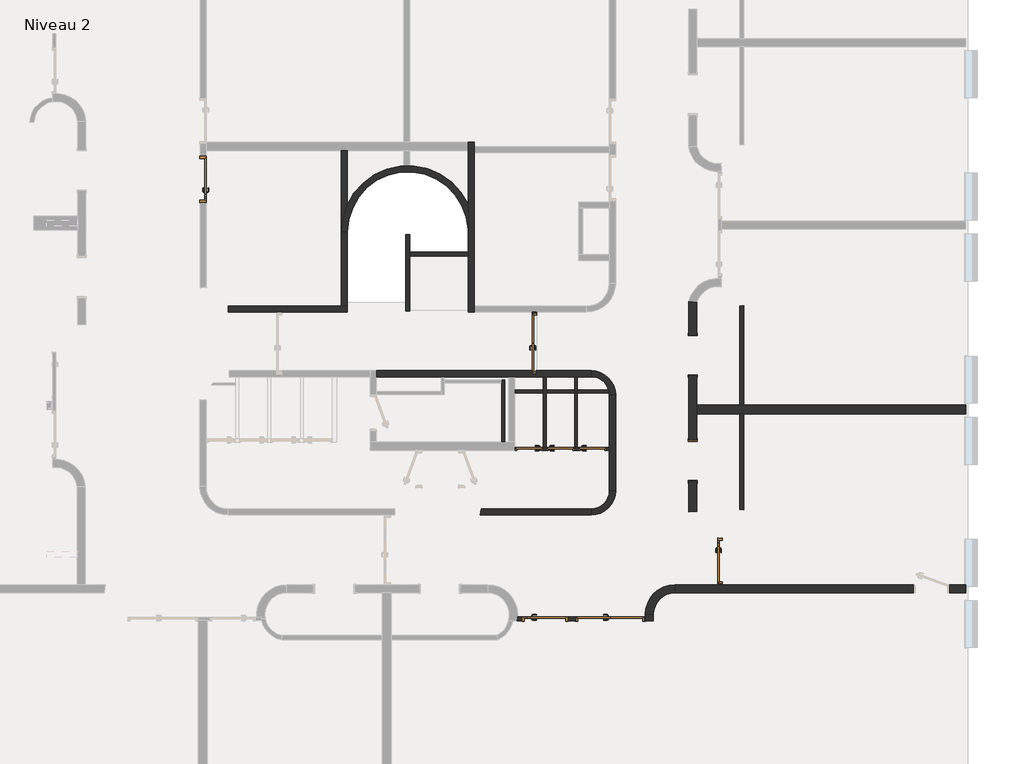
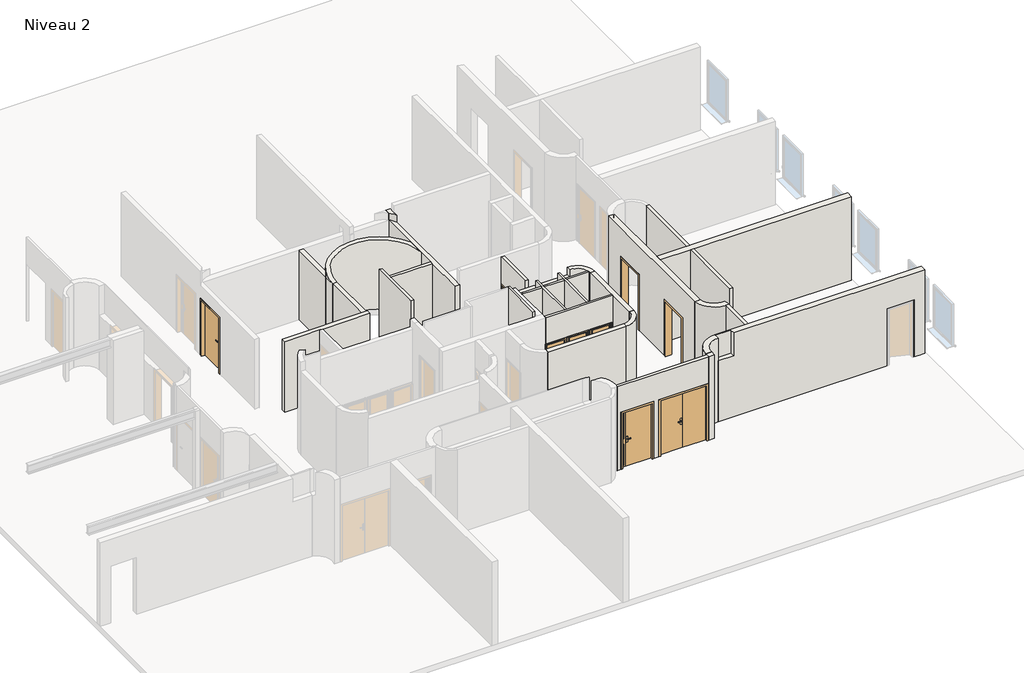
# One storey, part 3 of 5: 26 walls, 10 doors.
"""IFC4 building model written with IfcOpenShell, lengths in millimetres."""

from ifc_helpers import new_model, si_unit, point, frame, frame_2d, origin, place, context, project, spatial, polyline, circle_curve, trimmed, segment, composite_curve, outline, extrude, faceted_brep, transform, mapped, element, save
from ifc_brep_helpers import plane_surface, cylinder_surface, revolved_surface, advanced_brep
from components import door_50a5e481, door_d545ad62, door_1_10m_x_2_04m_0ed3c462, door_1_10m_x_2_04m_af5b6f76, door_1_10m_x_2_04m_b123601a, double_r_1_43m_x_2_04m_b80630db, double_r_1_63m_x_2_04m_345aba02, ouverture_en_rectangle_ouverture100x200_67694711

model = new_model("IFC4")

# Units and contexts
model_context = context("Model", 3, world=origin())
ifc_project = project(units=[si_unit("LENGTHUNIT", "METRE", prefix="MILLI")], contexts=[model_context])

# Site, building, storey
site = spatial("IfcSite", under=ifc_project)
building = spatial("IfcBuilding", under=site)
storey = spatial("IfcBuildingStorey", under=building, Name="Niveau 2", Elevation=7367.3082742)

# Doors
placement = place(None, origin())
door_shape = door_50a5e481(model_context)
element("IfcDoor", 1, ObjectType="@_Int. Simple : @_PP (0.63m x 2.04m)", at=placement, inside=storey, context=model_context, shape_type="MappedRepresentation", body=[
    mapped(door_shape, transform((-7902.2987935, -10692.340281, 7367.3082742), x_axis=(-1.0, 0.0, 0.0), y_axis=(0.0, -1.0, 0.0), z_axis=(0.0, 0.0, 1.0))),
])
door_2_shape = door_d545ad62(model_context)
element("IfcDoor", 2, ObjectType="@_Int. Simple : @_PP (0.63m x 2.04m)", at=placement, inside=storey, context=model_context, shape_type="MappedRepresentation", body=[
    mapped(door_2_shape, transform((-7062.2987935, -10692.340281, 7367.3082742), x_axis=(1.0, 0.0, 0.0), y_axis=(0.0, 1.0, 0.0), z_axis=(0.0, 0.0, 1.0))),
])
element("IfcDoor", 3, ObjectType="@_Int. Simple : @_PP (0.63m x 2.04m)", at=placement, inside=storey, context=model_context, shape_type="MappedRepresentation", body=[
    mapped(door_2_shape, transform((-6270.6439837, -10692.340281, 7367.3082742), x_axis=(1.0, 0.0, 0.0), y_axis=(0.0, 1.0, 0.0), z_axis=(0.0, 0.0, 1.0))),
])
door_1_10m_x_2_04m_shape = door_1_10m_x_2_04m_0ed3c462(model_context)
element("IfcDoor", 4, ObjectType="Tierce  160 : 1.10m x 2.04m", at=placement, inside=storey, context=model_context, shape_type="MappedRepresentation", body=[
    mapped(door_1_10m_x_2_04m_shape, transform((-7473.0636624, -14870.5536882, 7367.3082742), x_axis=(-1.0, 0.0, 0.0), y_axis=(0.0, -1.0, 0.0), z_axis=(0.0, 0.0, 1.0))),
])
door_1_10m_x_2_04m_2_shape = door_1_10m_x_2_04m_af5b6f76(model_context)
element("IfcDoor", 5, ObjectType="Tierce  160 : 1.10m x 2.04m", at=placement, inside=storey, context=model_context, shape_type="MappedRepresentation", body=[
    mapped(door_1_10m_x_2_04m_2_shape, transform((-3176.3429255, -13452.843611, 7367.3082742), x_axis=(0.0, 1.0, 0.0), y_axis=(-1.0, 0.0, 0.0), z_axis=(0.0, 0.0, 1.0))),
])
door_1_10m_x_2_04m_3_shape = door_1_10m_x_2_04m_b123601a(model_context)
element("IfcDoor", 6, ObjectType="Tierce  160 : 1.10m x 2.04m", at=placement, inside=storey, context=model_context, shape_type="MappedRepresentation", body=[
    mapped(door_1_10m_x_2_04m_3_shape, transform((-15865.2391723, -4069.1151394, 7367.3082742), x_axis=(0.0, -1.0, 0.0), y_axis=(1.0, 0.0, 0.0), z_axis=(0.0, 0.0, 1.0))),
])
double_r_1_43m_x_2_04m_shape = double_r_1_43m_x_2_04m_b80630db(model_context)
element("IfcDoor", 7, ObjectType="Double (R) : 1.43m x 2.04m", at=placement, inside=storey, context=model_context, shape_type="MappedRepresentation", body=[
    mapped(double_r_1_43m_x_2_04m_shape, transform((-7733.9891738, -8101.6151404, 7367.3082742), x_axis=(0.0, -1.0, 0.0), y_axis=(1.0, 0.0, 0.0), z_axis=(0.0, 0.0, 1.0))),
])
double_r_1_63m_x_2_04m_shape = double_r_1_63m_x_2_04m_345aba02(model_context)
element("IfcDoor", 8, ObjectType="Double (R) : 1.63m x 2.04m", at=placement, inside=storey, context=model_context, shape_type="MappedRepresentation", body=[
    mapped(double_r_1_63m_x_2_04m_shape, transform((-5873.9891741, -14870.5536882, 7367.3082742), x_axis=(-1.0, 0.0, 0.0), y_axis=(0.0, -1.0, 0.0), z_axis=(0.0, 0.0, 1.0))),
])
ouverture_en_rectangle_ouverture100x200_shape = ouverture_en_rectangle_ouverture100x200_67694711(model_context)
element("IfcDoor", 9, ObjectType="Ouverture en rectangle : Ouverture100x200", at=placement, inside=storey, context=model_context, shape_type="MappedRepresentation", body=[
    mapped(ouverture_en_rectangle_ouverture100x200_shape, transform((-3843.9891739, -10985.0791632, 7367.3082742), x_axis=(0.0, -1.0, 0.0), y_axis=(1.0, 0.0, 0.0), z_axis=(0.0, 0.0, 1.0))),
])
element("IfcDoor", 10, ObjectType="Ouverture en rectangle : Ouverture100x200", at=placement, inside=storey, context=model_context, shape_type="MappedRepresentation", body=[
    mapped(ouverture_en_rectangle_ouverture100x200_shape, transform((-3843.9891739, -8392.5129694, 7367.3082742), x_axis=(0.0, -1.0, 0.0), y_axis=(1.0, 0.0, 0.0), z_axis=(0.0, 0.0, 1.0))),
])

# Walls
element("IfcWall", 11, ObjectType="@_Générique - Int. 150 mm", at=placement, inside=storey, context=model_context, shape_type="AdvancedBrep", body=[
    advanced_brep(
    [(-6343.9891682, -8771.2578567, 10153.3082742), (-6343.9891682, -8771.2578567, 7367.3082742), (-7683.9891738, -8771.2578565, 7367.3082742), (-7683.9891738, -8771.2578565, 9442.3082742), (-7783.9891738, -8771.2578565, 9442.3082742), (-7783.9891738, -8771.2578565, 7367.3082742), (-11612.2987935, -8771.2578557, 7367.3082742), (-11612.2987935, -8771.2578557, 9903.3082742), (-9300.3729494, -8771.2578562, 9903.3082742), (-9300.3729494, -8771.2578562, 10153.3082742), (-11612.2987935, -8921.2578557, 7367.3082742), (-8367.2987935, -8921.2578564, 7367.3082742), (-8217.2987935, -8921.2578564, 7367.3082742), (-6343.9891682, -8921.2578567, 7367.3082742), (-6343.9891682, -8921.2578567, 10153.3082742), (-9467.1593124, -8921.2578562, 10153.3082742), (-9467.1593124, -8921.2578562, 9903.3082742), (-11612.2987935, -8921.2578557, 9903.3082742), (-7783.9891738, -8851.6151404, 7367.3082742), (-7683.9891738, -8851.6151404, 7367.3082742), (-7783.9891738, -8851.6151404, 9442.3082742), (-7683.9891738, -8851.6151404, 9442.3082742)],
    [
        (0, 1),
        (1, 2),
        (2, 3),
        (3, 4),
        (4, 5),
        (5, 6),
        (6, 7),
        (7, 8),
        (8, 9),
        (9, 0),
        (10, 11),
        (11, 12),
        (12, 13),
        (13, 14),
        (14, 15),
        (15, 16),
        (16, 17),
        (17, 10),
        (10, 6),
        (5, 18),
        (18, 19),
        (19, 2),
        (1, 13),
        (14, 0),
        (9, 15, circle_curve(frame((-9798.5997137, -8385.0006258, 10153.3082742), z_axis=(0.0, 0.0, -1.0), x_axis=(1.0, 0.0, 0.0)), 630.4161773)),
        (17, 7),
        (20, 18),
        (4, 20),
        (19, 21),
        (21, 3),
        (20, 21),
        (16, 8, circle_curve(frame((-9798.5997137, -8385.0006258, 9903.3082742), z_axis=(0.0, 0.0, 1.0), x_axis=(1.0, 0.0, 0.0)), 630.4161773)),
    ],
    [
        plane_surface(frame((-6885.9365048, -8771.2578566, 7367.3082742), z_axis=(1.901362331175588e-10, 1.0, 0.0), x_axis=(-1.0, 1.901362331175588e-10, 0.0))),
        plane_surface(frame((-6885.9365049, -8921.2578566, 7367.3082742), z_axis=(-1.901362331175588e-10, -1.0, 0.0), x_axis=(1.0, -1.901362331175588e-10, 0.0))),
        plane_surface(frame((-6343.9891682, -8771.2578567, 7367.3082742), z_axis=(0.0, 0.0, -1.0), x_axis=(-1.9013702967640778e-10, -1.0, 0.0))),
        plane_surface(frame((-11687.2987935, -8771.2578557, 10153.3082742), z_axis=(0.0, 0.0, 1.0), x_axis=(-1.9013702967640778e-10, -1.0, 0.0))),
        plane_surface(frame((-6343.9891682, -8771.2578567, 10153.3082742), z_axis=(1.0, -1.9013702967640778e-10, 0.0), x_axis=(-1.9013702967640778e-10, -1.0, 0.0))),
        plane_surface(frame((-11612.2987936, -9336.9590737, 7367.3082742), z_axis=(-1.0, 5.461864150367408e-11, 0.0), x_axis=(5.461864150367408e-11, 1.0, 0.0))),
        plane_surface(frame((-7783.9891738, -8851.6151404, 7367.3082742), z_axis=(1.0, 0.0, 0.0), x_axis=(0.0, 0.0, 1.0))),
        plane_surface(frame((-7683.9891738, -8851.6151404, 7367.3082742), z_axis=(-1.0, 0.0, 0.0), x_axis=(0.0, 0.0, -1.0))),
        plane_surface(frame((-7783.9891738, -8851.6151404, 7367.3082742), z_axis=(0.0, 1.0, 0.0), x_axis=(1.0, 0.0, 0.0))),
        plane_surface(frame((-7783.9891738, -8851.6151404, 9442.3082742), z_axis=(0.0, 0.0, -1.0), x_axis=(1.0, 0.0, 0.0))),
        plane_surface(frame((-16005.9365049, -3748.1295117, 9903.3082742), z_axis=(0.0, 0.0, 1.0), x_axis=(0.0, 1.0, 0.0))),
        revolved_surface(polyline([(-9168.1835364, -8385.0006258, 9903.3082742), (-9168.1835364, -8385.0006258, 10153.3082742)]), (-9798.5997137, -8385.0006258, 10153.3082742), (0.0, 0.0, -1.0)),
    ],
    [
        (0, [[1, 2, 3, 4, 5, 6, 7, 8, 9, 10]]),
        (1, [[11, 12, 13, 14, 15, 16, 17, 18]]),
        (2, [[-13, -12, -11, 19, -6, 20, 21, 22, -2, 23]]),
        (3, [[24, -10, 25, -15]]),
        (4, [[-1, -24, -14, -23]]),
        (5, [[-19, -18, 26, -7]]),
        (6, [[27, -20, -5, 28]]),
        (7, [[29, 30, -3, -22]]),
        (8, [[-27, 31, -29, -21]]),
        (9, [[-31, -28, -4, -30]]),
        (10, [[32, -8, -26, -17]]),
        (11, [[-32, -16, -25, -9]]),
    ],
),
])
element("IfcWall", 12, ObjectType="@_Générique - Int. 150 mm", at=placement, inside=storey, context=model_context, shape_type="SweptSolid", body=[
    extrude(outline(polyline([(-5893.9891697, -11719.0722245), (-5893.9891695, -9371.2578561), (-5743.9891695, -9371.2578561), (-5743.9891697, -11719.0722245), (-5893.9891697, -11719.0722245)])), frame((0.0, 0.0, 7367.3082742), z_axis=(0.0, 0.0, 1.0), x_axis=(1.0, 0.0, 0.0)), (0.0, 0.0, 1.0), 3056.0),
])
element("IfcWall", 13, ObjectType="@_Générique - Int. 150 mm", at=placement, inside=storey, context=model_context, shape_type="SweptSolid", body=[
    extrude(outline(polyline([(-9039.5387792, -12169.0722257), (-6343.9891715, -12169.0722258), (-6343.9891715, -12319.0722258), (-9061.0734527, -12319.0722257), (-9039.5387792, -12169.0722257)])), frame((0.0, 0.0, 7367.3082742), z_axis=(0.0, 0.0, 1.0), x_axis=(1.0, 0.0, 0.0)), (0.0, 0.0, 1.0), 3056.0),
])
element("IfcWall", 14, ObjectType="@_Générique - Int. 150 mm", at=placement, inside=storey, context=model_context, shape_type="AdvancedBrep", body=[
    advanced_brep(
    [(-5743.9891691, -9371.2578562, 7367.3082742), (-5893.9891691, -9371.2578562, 7367.3082742), (-6343.9891683, -8921.2578567, 7367.3082742), (-6343.9891683, -8771.2578567, 7367.3082742), (-6343.9891683, -8771.2578567, 10423.3082742), (-5743.9891691, -9371.2578562, 10423.3082742), (-6343.9891683, -8771.2578567, 10153.3082742), (-6343.9891683, -8921.2578567, 10423.3082742), (-6343.9891683, -8921.2578567, 10153.3082742), (-5893.9891691, -9371.2578562, 10423.3082742)],
    [
        (0, 1),
        (1, 2, circle_curve(frame((-6343.9891685, -9371.2578561, 7367.3082742), z_axis=(0.0, 0.0, 1.0), x_axis=(2.8420715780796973e-10, 1.0, 0.0)), 449.9999994)),
        (2, 3),
        (3, 0, circle_curve(frame((-6343.9891685, -9371.2578561, 7367.3082742), z_axis=(0.0, 0.0, -1.0), x_axis=(2.8420715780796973e-10, 1.0, 0.0)), 599.9999994)),
        (4, 5, circle_curve(frame((-6343.9891685, -9371.2578561, 10423.3082742), z_axis=(0.0, 0.0, -1.0), x_axis=(2.8420715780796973e-10, 1.0, 0.0)), 599.9999994)),
        (5, 0),
        (3, 6),
        (6, 4),
        (7, 4),
        (2, 8),
        (8, 7),
        (9, 7, circle_curve(frame((-6343.9891685, -9371.2578561, 10423.3082742), z_axis=(0.0, 0.0, 1.0), x_axis=(2.8420715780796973e-10, 1.0, 0.0)), 449.9999994)),
        (1, 9),
        (5, 9),
    ],
    [
        plane_surface(frame((-6343.9891683, -8771.2578567, 7367.3082742), z_axis=(0.0, 0.0, -1.0), x_axis=(1.0, -2.8420715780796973e-10, 0.0))),
        cylinder_surface(frame((-6343.9891685, -9371.2578561, 7367.3082742), z_axis=(0.0, 0.0, 1.0), x_axis=(2.8420715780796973e-10, 1.0, 0.0)), 599.9999994),
        plane_surface(frame((-6343.9891683, -8771.2578567, 10423.3082742), z_axis=(-1.0, 2.8423096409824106e-10, 0.0), x_axis=(0.0, 0.0, -1.0))),
        revolved_surface(polyline([(-6343.989168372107, -8921.257856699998, 7367.3082742), (-6343.989168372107, -8921.257856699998, 10423.3082742)]), (-6343.9891685, -9371.2578561, 7367.3082742), (0.0, 0.0, -1.0)),
        plane_surface(frame((-5893.9891691, -9371.2578562, 10423.3082742), z_axis=(-2.8423096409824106e-10, -1.0, 0.0), x_axis=(0.0, 0.0, -1.0))),
        plane_surface(frame((-25603.9891731, 10580.8848592, 10423.3082742), z_axis=(0.0, 0.0, 1.0), x_axis=(0.0, 1.0, 0.0))),
    ],
    [
        (0, [[1, 2, 3, 4]]),
        (1, [[5, 6, -4, 7, 8]]),
        (2, [[9, -8, -7, -3, 10, 11]]),
        (3, [[12, -11, -10, -2, 13]]),
        (4, [[14, -13, -1, -6]]),
        (5, [[-5, -9, -12, -14]]),
    ],
),
])
element("IfcWall", 15, ObjectType="@_Générique - Int. 150 mm", at=placement, inside=storey, context=model_context, shape_type="SweptSolid", body=[
    extrude(outline(composite_curve([segment(polyline([(-6343.9891718, -12319.0722259), (-6343.9891717, -12169.0722259)]), True, "CONTINUOUS"), segment(trimmed(circle_curve(frame_2d((-6343.9891715, -11719.0722245)), 450.0000014), [point((-6343.9891717, -12169.0722259))], [point((-5893.9891701, -11719.0722247))], True, "CARTESIAN"), True, "CONTINUOUS"), segment(polyline([(-5893.9891701, -11719.0722247), (-5743.9891701, -11719.0722247)]), True, "CONTINUOUS"), segment(trimmed(circle_curve(frame_2d((-6343.9891715, -11719.0722245)), 600.0000014), [point((-5743.9891701, -11719.0722247))], [point((-6343.9891718, -12319.0722259))], False, "CARTESIAN"), True, "CONTINUOUS")], self_intersect=False)), frame((0.0, 0.0, 7367.3082742), z_axis=(0.0, 0.0, 1.0), x_axis=(1.0, 0.0, 0.0)), (0.0, 0.0, 1.0), 3056.0),
])
element("IfcWall", 16, ObjectType="@_Générique - Int. 100 mm", at=placement, inside=storey, context=model_context, shape_type="Brep", body=[
    faceted_brep([(-10893.9891698, -5429.1151397, 7367.3082742), (-10893.9891698, -7309.1151398, 7367.3082742), (-10893.9891698, -7309.1151398, 9903.3082742), (-10893.9891698, -5429.1151397, 9903.3082742), (-10793.9891698, -5429.1151397, 7367.3082742), (-10793.9891698, -5429.1151397, 9903.3082742), (-10793.9891698, -5856.6151397, 9903.3082742), (-10793.9891698, -5956.6151397, 9903.3082742), (-10793.9891698, -7309.1151398, 9903.3082742), (-10793.9891698, -7309.1151398, 7367.3082742), (-10793.9891698, -5956.6151397, 7367.3082742), (-10793.9891698, -5856.6151397, 7367.3082742)], [[[0, 1, 2, 3]], [[4, 5, 6, 7, 8, 9, 10, 11]], [[1, 0, 4, 11, 10, 9]], [[2, 1, 9, 8]], [[0, 3, 5, 4]], [[3, 2, 8, 7, 6, 5]]]),
])
element("IfcWall", 17, ObjectType="@_Générique - Int. 100 mm", at=placement, inside=storey, context=model_context, shape_type="SweptSolid", body=[
    extrude(outline(polyline([(-7329.1151401, 10423.3082742), (-7329.1151401, 7367.3082742), (-7351.6151404, 7367.3082742), (-7351.6151404, 9442.3082742), (-8771.2578565, 9442.3082742), (-8771.2578565, 10423.3082742), (-7329.1151401, 10423.3082742)])), frame((-7783.9891738, 0.0, 0.0), z_axis=(1.0, 0.0, 0.0), x_axis=(0.0, 1.0, 0.0)), (0.0, 0.0, 1.0), 100.0),
])
element("IfcWall", 18, ObjectType="@_Générique - Int. 100 mm", at=placement, inside=storey, context=model_context, shape_type="AdvancedBrep", body=[
    advanced_brep(
    [(-5012.8651863, -14920.5536882, 10423.3082742), (-8167.0750995, -14920.5536882, 10423.3082742), (-8167.0750995, -14920.5536882, 7367.3082742), (-8033.0636624, -14920.5536882, 7367.3082742), (-8033.0636624, -14920.5536882, 9442.3082742), (-6913.0636624, -14920.5536882, 9442.3082742), (-6913.0636624, -14920.5536882, 7367.3082742), (-6723.9891741, -14920.5536882, 7367.3082742), (-6723.9891741, -14920.5536882, 9442.3082742), (-5023.9891741, -14920.5536882, 9442.3082742), (-5023.9891741, -14920.5536882, 7367.3082742), (-5012.8651863, -14920.5536882, 7367.3082742), (-8151.5901412, -14820.5536882, 10423.3082742), (-5012.8651863, -14820.5536882, 10423.3082742), (-5012.8651863, -14820.5536882, 7367.3082742), (-5023.9891741, -14820.5536882, 7367.3082742), (-5023.9891741, -14820.5536882, 9442.3082742), (-6723.9891741, -14820.5536882, 9442.3082742), (-6723.9891741, -14820.5536882, 7367.3082742), (-6913.0636624, -14820.5536882, 7367.3082742), (-6913.0636624, -14820.5536882, 9442.3082742), (-8033.0636624, -14820.5536882, 9442.3082742), (-8033.0636624, -14820.5536882, 7367.3082742), (-8151.5901412, -14820.5536882, 7367.3082742)],
    [
        (0, 1),
        (1, 2),
        (2, 3),
        (3, 4),
        (4, 5),
        (5, 6),
        (6, 7),
        (7, 8),
        (8, 9),
        (9, 10),
        (10, 11),
        (11, 0),
        (12, 13),
        (13, 14),
        (14, 15),
        (15, 16),
        (16, 17),
        (17, 18),
        (18, 19),
        (19, 20),
        (20, 21),
        (21, 22),
        (22, 23),
        (23, 12),
        (2, 23, circle_curve(frame((-8879.0, -14759.1134946, 7367.3082742), z_axis=(0.0, 0.0, 1.0), x_axis=(1.0, 0.0, 0.0)), 730.0)),
        (22, 3),
        (14, 11),
        (10, 15),
        (6, 19),
        (18, 7),
        (0, 13),
        (12, 1, circle_curve(frame((-8879.0, -14759.1134946, 10423.3082742), z_axis=(0.0, 0.0, -1.0), x_axis=(1.0, 0.0, 0.0)), 730.0)),
        (21, 4),
        (20, 5),
        (17, 8),
        (16, 9),
    ],
    [
        plane_surface(frame((-9830.6588449, -14920.5536882, 7367.3082742), z_axis=(0.0, -1.0, 0.0), x_axis=(1.0, 0.0, 0.0))),
        plane_surface(frame((-9830.6588449, -14820.5536882, 7367.3082742), z_axis=(0.0, 1.0, 0.0), x_axis=(-1.0, 0.0, 0.0))),
        plane_surface(frame((-8258.9346137, -14920.5536882, 7367.3082742), z_axis=(0.0, 0.0, -1.0), x_axis=(0.0, 1.0, 0.0))),
        plane_surface(frame((-25603.9891731, 10580.8848592, 10423.3082742), z_axis=(0.0, 0.0, 1.0), x_axis=(0.0, 1.0, 0.0))),
        revolved_surface(polyline([(-8149.0, -14759.1134946, 10423.3082742), (-8149.0, -14759.1134946, 7367.3082742)]), (-8879.0, -14759.1134946, 7367.3082742), (0.0, 0.0, 1.0)),
        plane_surface(frame((-5012.8651863, -18707.2463597, 7367.3082742), z_axis=(1.0, 0.0, 0.0), x_axis=(0.0, -1.0, 0.0))),
        plane_surface(frame((-8033.0636624, -13296.5536882, 7367.3082742), z_axis=(1.0, 0.0, 0.0), x_axis=(0.0, -1.0, 0.0))),
        plane_surface(frame((-8033.0636624, -13296.5536882, 9442.3082742), z_axis=(0.0, 0.0, -1.0), x_axis=(0.0, -1.0, 0.0))),
        plane_surface(frame((-6913.0636624, -13296.5536882, 9442.3082742), z_axis=(-1.0, 0.0, 0.0), x_axis=(0.0, -1.0, 0.0))),
        plane_surface(frame((-6723.9891741, -13296.5536882, 7367.3082742), z_axis=(1.0, 0.0, 0.0), x_axis=(0.0, -1.0, 0.0))),
        plane_surface(frame((-6723.9891741, -13296.5536882, 9442.3082742), z_axis=(0.0, 0.0, -1.0), x_axis=(0.0, -1.0, 0.0))),
        plane_surface(frame((-5023.9891741, -13296.5536882, 9442.3082742), z_axis=(-1.0, 0.0, 0.0), x_axis=(0.0, -1.0, 0.0))),
    ],
    [
        (0, [[1, 2, 3, 4, 5, 6, 7, 8, 9, 10, 11, 12]]),
        (1, [[13, 14, 15, 16, 17, 18, 19, 20, 21, 22, 23, 24]]),
        (2, [[25, -23, 26, -3]]),
        (2, [[27, -11, 28, -15]]),
        (2, [[29, -19, 30, -7]]),
        (3, [[-1, 31, -13, 32]]),
        (4, [[-2, -32, -24, -25]]),
        (5, [[-12, -27, -14, -31]]),
        (6, [[-4, -26, -22, 33]]),
        (7, [[-5, -33, -21, 34]]),
        (8, [[-6, -34, -20, -29]]),
        (9, [[35, -8, -30, -18]]),
        (10, [[-35, -17, 36, -9]]),
        (11, [[-36, -16, -28, -10]]),
    ],
),
])
element("IfcWall", 19, ObjectType="@_Générique - Int. 100 mm", at=placement, inside=storey, context=model_context, shape_type="AdvancedBrep", body=[
    advanced_brep(
    [(-3226.3429255, -14029.1151398, 10423.3082742), (-3226.3429255, -12866.7205785, 10423.3082742), (-3226.3429255, -12866.7205785, 7367.3082742), (-3226.3429255, -12892.843611, 7367.3082742), (-3226.3429255, -12892.843611, 9442.3082742), (-3226.3429255, -14012.843611, 9442.3082742), (-3226.3429255, -14012.843611, 7367.3082742), (-3226.3429255, -14029.1151398, 7367.3082742), (-3126.3429255, -12860.4139037, 10423.3082742), (-3126.3429255, -14029.1151398, 10423.3082742), (-3126.3429255, -14029.1151398, 7367.3082742), (-3126.3429255, -14012.843611, 7367.3082742), (-3126.3429255, -14012.843611, 9442.3082742), (-3126.3429255, -12892.843611, 9442.3082742), (-3126.3429255, -12892.843611, 7367.3082742), (-3126.3429255, -12860.4139037, 7367.3082742)],
    [
        (0, 1),
        (1, 2),
        (2, 3),
        (3, 4),
        (4, 5),
        (5, 6),
        (6, 7),
        (7, 0),
        (8, 9),
        (9, 10),
        (10, 11),
        (11, 12),
        (12, 13),
        (13, 14),
        (14, 15),
        (15, 8),
        (10, 7),
        (6, 11),
        (2, 15, circle_curve(frame((-3222.1820332, -12136.7324368, 7367.3082742), z_axis=(0.0, 0.0, 1.0), x_axis=(-1.0, 0.0, 0.0)), 730.0)),
        (14, 3),
        (0, 9),
        (8, 1, circle_curve(frame((-3222.1820332, -12136.7324368, 10423.3082742), z_axis=(0.0, 0.0, -1.0), x_axis=(-1.0, 0.0, 0.0)), 730.0)),
        (4, 13),
        (12, 5),
    ],
    [
        plane_surface(frame((-3226.3429255, -10782.8101599, 7367.3082742), z_axis=(-1.0, 0.0, 0.0), x_axis=(0.0, -1.0, 0.0))),
        plane_surface(frame((-3126.3429255, -10782.8101599, 7367.3082742), z_axis=(1.0, 0.0, 0.0), x_axis=(0.0, 1.0, 0.0))),
        plane_surface(frame((-3226.3429255, -12765.0625859, 7367.3082742), z_axis=(0.0, 0.0, -1.0), x_axis=(1.0, 0.0, 0.0))),
        plane_surface(frame((-25603.9891731, 10580.8848592, 10423.3082742), z_axis=(0.0, 0.0, 1.0), x_axis=(0.0, 1.0, 0.0))),
        plane_surface(frame((-4185.9365048, -14029.1151398, 7367.3082742), z_axis=(0.0, -1.0, 0.0), x_axis=(-1.0, 0.0, 0.0))),
        revolved_surface(polyline([(-3952.1820332, -12136.7324368, 10423.3082742), (-3952.1820332, -12136.7324368, 7367.3082742)]), (-3222.1820332, -12136.7324368, 7367.3082742), (0.0, 0.0, 1.0)),
        plane_surface(frame((-1702.3429255, -12892.843611, 9442.3082742), z_axis=(0.0, 0.0, -1.0), x_axis=(-1.0, 0.0, 0.0))),
        plane_surface(frame((-1702.3429255, -14012.843611, 9442.3082742), z_axis=(0.0, 1.0, 0.0), x_axis=(-1.0, 0.0, 0.0))),
        plane_surface(frame((-1702.3429255, -12892.843611, 7367.3082742), z_axis=(0.0, -1.0, 0.0), x_axis=(-1.0, 0.0, 0.0))),
    ],
    [
        (0, [[1, 2, 3, 4, 5, 6, 7, 8]]),
        (1, [[9, 10, 11, 12, 13, 14, 15, 16]]),
        (2, [[17, -7, 18, -11]]),
        (2, [[19, -15, 20, -3]]),
        (3, [[-1, 21, -9, 22]]),
        (4, [[-8, -17, -10, -21]]),
        (5, [[-2, -22, -16, -19]]),
        (6, [[23, -13, 24, -5]]),
        (7, [[-24, -12, -18, -6]]),
        (8, [[-23, -4, -20, -14]]),
    ],
),
])
element("IfcWall", 20, ObjectType="@_Générique - Int. 100 mm", at=placement, inside=storey, context=model_context, shape_type="SweptSolid", body=[
    extrude(outline(polyline([(-2694.0801289, -7181.5913579), (-2594.0801289, -7177.4854157), (-2594.0801289, -9613.7494319), (-2694.0801289, -9613.7494319), (-2694.0801289, -7181.5913579)])), frame((0.0, 0.0, 7367.3082742), z_axis=(0.0, 0.0, 1.0), x_axis=(1.0, 0.0, 0.0)), (0.0, 0.0, 1.0), 3056.0),
    extrude(outline(polyline([(-2594.0801289, -12185.5995809), (-2694.0801289, -12181.5473745), (-2694.0801289, -9833.7494319), (-2594.0801289, -9833.7494319), (-2594.0801289, -12185.5995809)])), frame((0.0, 0.0, 7367.3082742), z_axis=(0.0, 0.0, 1.0), x_axis=(1.0, 0.0, 0.0)), (0.0, 0.0, 1.0), 3056.0),
])
element("IfcWall", 21, ObjectType="@_Générique - Int. 100 mm", at=placement, inside=storey, context=model_context, shape_type="SweptSolid", body=[
    extrude(outline(polyline([(-10793.9891698, -5856.6151397), (-9363.9891731, -5856.6151397), (-9363.9891731, -5956.6151397), (-10793.9891698, -5956.6151397), (-10793.9891698, -5856.6151397)])), frame((0.0, 0.0, 7367.3082742), z_axis=(0.0, 0.0, 1.0), x_axis=(1.0, 0.0, 0.0)), (0.0, 0.0, 1.0), 2536.0),
])
element("IfcWall", 22, ObjectType="@_Générique - Int. 70 mm", at=placement, inside=storey, context=model_context, shape_type="Brep", body=[
    faceted_brep([(-7517.2987935, -8921.2578565, 7367.3082742), (-7517.2987936, -9251.6151384, 7367.3082742), (-7517.2987936, -9321.6151384, 7367.3082742), (-7517.2987936, -10657.340281, 7367.3082742), (-7517.2987936, -10657.340281, 10423.3082742), (-7517.2987936, -9321.6151384, 10423.3082742), (-7517.2987936, -9251.6151384, 10423.3082742), (-7517.2987935, -8921.2578565, 10423.3082742), (-7447.2987935, -8921.2578565, 7367.3082742), (-7447.2987935, -8921.2578565, 10423.3082742), (-7447.2987936, -9251.6151384, 10423.3082742), (-7447.2987936, -9321.6151384, 10423.3082742), (-7447.2987936, -10657.340281, 10423.3082742), (-7447.2987936, -10657.340281, 7367.3082742), (-7447.2987936, -9321.6151384, 7367.3082742), (-7447.2987936, -9251.6151384, 7367.3082742)], [[[0, 1, 2, 3, 4, 5, 6, 7]], [[8, 9, 10, 11, 12, 13, 14, 15]], [[3, 2, 1, 0, 8, 15, 14, 13]], [[7, 6, 5, 4, 12, 11, 10, 9]], [[0, 7, 9, 8]], [[4, 3, 13, 12]]]),
])
element("IfcWall", 23, ObjectType="@_Générique - Int. 70 mm", at=placement, inside=storey, context=model_context, shape_type="Brep", body=[
    faceted_brep([(-6747.2987935, -8921.2578567, 7367.3082742), (-6747.2987936, -9251.6151384, 7367.3082742), (-6747.2987936, -9321.6151384, 7367.3082742), (-6747.2987936, -10657.340281, 7367.3082742), (-6747.2987936, -10657.340281, 10423.3082742), (-6747.2987936, -9321.6151384, 10423.3082742), (-6747.2987936, -9251.6151384, 10423.3082742), (-6747.2987935, -8921.2578567, 10423.3082742), (-6677.2987935, -8921.2578567, 7367.3082742), (-6677.2987935, -8921.2578567, 10423.3082742), (-6677.2987936, -9251.6151384, 10423.3082742), (-6677.2987936, -9321.6151384, 10423.3082742), (-6677.2987936, -10657.340281, 10423.3082742), (-6677.2987936, -10657.340281, 7367.3082742), (-6677.2987936, -9321.6151384, 7367.3082742), (-6677.2987936, -9251.6151384, 7367.3082742)], [[[0, 1, 2, 3, 4, 5, 6, 7]], [[8, 9, 10, 11, 12, 13, 14, 15]], [[3, 2, 1, 0, 8, 15, 14, 13]], [[7, 6, 5, 4, 12, 11, 10, 9]], [[0, 7, 9, 8]], [[4, 3, 13, 12]]]),
])
element("IfcWall", 24, ObjectType="@_Générique - Int. 70 mm", at=placement, inside=storey, context=model_context, shape_type="Brep", body=[
    faceted_brep([(-8217.2987936, -10657.340281, 10423.3082742), (-7517.2987936, -10657.340281, 10423.3082742), (-7447.2987936, -10657.340281, 10423.3082742), (-6747.2987936, -10657.340281, 10423.3082742), (-6677.2987936, -10657.340281, 10423.3082742), (-5893.9891696, -10657.340281, 10423.3082742), (-5893.9891696, -10657.340281, 7367.3082742), (-5955.6439837, -10657.340281, 7367.3082742), (-5955.6439837, -10657.340281, 9442.3082742), (-6655.6439837, -10657.340281, 9442.3082742), (-6655.6439837, -10657.340281, 7367.3082742), (-6677.2987936, -10657.340281, 7367.3082742), (-6747.2987935, -10657.340281, 7367.3082742), (-6747.2987935, -10657.340281, 9442.3082742), (-7447.2987935, -10657.340281, 9442.3082742), (-7447.2987935, -10657.340281, 7367.3082742), (-7517.2987935, -10657.340281, 7367.3082742), (-7517.2987935, -10657.340281, 9442.3082742), (-8217.2987936, -10657.340281, 9442.3082742), (-5893.9891696, -10727.340281, 10423.3082742), (-8217.2987936, -10727.340281, 10423.3082742), (-8217.2987936, -10727.340281, 9442.3082742), (-7517.2987935, -10727.340281, 9442.3082742), (-7517.2987935, -10727.340281, 7367.3082742), (-7447.2987935, -10727.340281, 7367.3082742), (-7447.2987935, -10727.340281, 9442.3082742), (-6747.2987935, -10727.340281, 9442.3082742), (-6747.2987935, -10727.340281, 7367.3082742), (-6655.6439837, -10727.340281, 7367.3082742), (-6655.6439837, -10727.340281, 9442.3082742), (-5955.6439837, -10727.340281, 9442.3082742), (-5955.6439837, -10727.340281, 7367.3082742), (-5893.9891696, -10727.340281, 7367.3082742)], [[[0, 1, 2, 3, 4, 5, 6, 7, 8, 9, 10, 11, 12, 13, 14, 15, 16, 17, 18]], [[19, 20, 21, 22, 23, 24, 25, 26, 27, 28, 29, 30, 31, 32]], [[6, 32, 31, 7]], [[23, 16, 15, 24]], [[27, 12, 11, 10, 28]], [[5, 4, 3, 2, 1, 0, 20, 19]], [[20, 0, 18, 21]], [[6, 5, 19, 32]], [[17, 22, 21, 18]], [[22, 17, 16, 23]], [[13, 12, 27, 26]], [[14, 13, 26, 25]], [[15, 14, 25, 24]], [[30, 8, 7, 31]], [[8, 30, 29, 9]], [[9, 29, 28, 10]]]),
])
element("IfcWall", 25, ObjectType="@_Générique - Int. 70 mm", at=placement, inside=storey, context=model_context, shape_type="SweptSolid", body=[
    extrude(outline(polyline([(10423.3082742, -8178.5797274), (10423.3082742, -8217.2987936), (7367.3082742, -8217.2987936), (7367.3082742, -7517.2987936), (10423.3082742, -7517.2987936), (10423.3082742, -8178.5797274)])), frame((0.0, -9321.6151384, 0.0), z_axis=(0.0, 1.0, 0.0), x_axis=(0.0, 0.0, 1.0)), (0.0, 0.0, 1.0), 70.0),
    extrude(outline(composite_curve([segment(trimmed(circle_curve(frame_2d((-6343.9891685, -9371.2578561)), 449.9999994), [point((-5910.1855037, -9251.6151384))], [point((-5896.7357727, -9321.6151384))], False, "CARTESIAN"), True, "CONTINUOUS"), segment(polyline([(-5896.7357727, -9321.6151384), (-6677.2987936, -9321.6151384), (-6677.2987936, -9251.6151384), (-5910.1855037, -9251.6151384)]), True, "CONTINUOUS")], self_intersect=False)), frame((0.0, 0.0, 7367.3082742), z_axis=(0.0, 0.0, 1.0), x_axis=(1.0, 0.0, 0.0)), (0.0, 0.0, 1.0), 3056.0),
    extrude(outline(polyline([(-7447.2987936, -9321.6151384), (-7447.2987936, -9251.6151384), (-6747.2987936, -9251.6151384), (-6747.2987936, -9321.6151384), (-7447.2987936, -9321.6151384)])), frame((0.0, 0.0, 7367.3082742), z_axis=(0.0, 0.0, 1.0), x_axis=(1.0, 0.0, 0.0)), (0.0, 0.0, 1.0), 3056.0),
])
element("IfcWall", 26, ObjectType="@_Générique - Int. 70 mm", at=placement, inside=storey, context=model_context, shape_type="Brep", body=[
    faceted_brep([(-8534.2537144, -9004.94378, 7367.3082742), (-8534.2537144, -9074.94378, 7367.3082742), (-8534.2537144, -10522.9401837, 7367.3082742), (-8534.2537144, -10522.9401837, 10612.7437846), (-8534.2537144, -9074.94378, 10612.7437846), (-8534.2537144, -9004.94378, 10612.7437846), (-8464.2537144, -9004.94378, 7367.3082742), (-8464.2537144, -9004.94378, 10612.7437846), (-8464.2537144, -10522.9401837, 10612.7437846), (-8464.2537144, -10522.9401837, 7367.3082742)], [[[0, 1, 2, 3, 4, 5]], [[6, 7, 8, 9]], [[2, 1, 0, 6, 9]], [[3, 2, 9, 8]], [[5, 4, 3, 8, 7]], [[0, 5, 7, 6]]]),
])
element("IfcWall", 27, ObjectType="Ext. Voile BA 150", at=placement, inside=storey, context=model_context, shape_type="Brep", body=[
    faceted_brep([(-12323.989173, -7179.1151393, 7367.3082742), (-12473.989173, -7179.1151393, 7367.3082742), (-15251.489173, -7179.1151391, 7367.3082742), (-15251.489173, -7179.1151391, 9903.3082742), (-15251.489173, -7179.1151391, 9953.3082742), (-12323.989173, -7179.1151393, 9953.3082742), (-12323.989173, -7179.1151393, 9903.3082742), (-12323.989173, -7329.1151393, 7367.3082742), (-12323.989173, -7329.1151393, 9953.3082742), (-13948.9891737, -7329.1151392, 9953.3082742), (-14048.9891737, -7329.1151392, 9953.3082742), (-15251.489173, -7329.1151391, 9953.3082742), (-15251.489173, -7329.1151391, 9903.3082742), (-15251.489173, -7329.1151391, 7367.3082742), (-14048.9891737, -7329.1151392, 7367.3082742), (-13948.9891737, -7329.1151392, 7367.3082742)], [[[0, 1, 2, 3, 4, 5, 6]], [[7, 8, 9, 10, 11, 12, 13, 14, 15]], [[2, 1, 0, 7, 15, 14, 13]], [[4, 3, 2, 13, 12, 11]], [[5, 4, 11, 10, 9, 8]], [[0, 6, 5, 8, 7]]]),
])
element("IfcWall", 28, ObjectType="Ext. Voile BA 150", at=placement, inside=storey, context=model_context, shape_type="SweptSolid", body=[
    extrude(outline(composite_curve([segment(polyline([(-12473.989173, -7179.1151393), (-12473.9891731, -3364.1151399), (-12323.9891731, -3364.1151399), (-12323.9891731, -4688.8222347)]), True, "CONTINUOUS"), segment(trimmed(circle_curve(frame_2d((-10842.7391726, -5369.1151392)), 1630.0), [point((-12323.9891731, -4688.8222347))], [point((-12472.7391726, -5369.1151392))], True, "CARTESIAN"), True, "CONTINUOUS"), segment(polyline([(-12472.7391726, -5369.1151392), (-12323.9891731, -5369.1151392), (-12323.989173, -7179.1151393), (-12473.989173, -7179.1151393)]), True, "CONTINUOUS")], self_intersect=False)), frame((0.0, 0.0, 7367.3082742), z_axis=(0.0, 0.0, 1.0), x_axis=(1.0, 0.0, 0.0)), (0.0, 0.0, 1.0), 2536.0),
])
element("IfcWall", 29, ObjectType="Ext. Voile BA 150", at=placement, inside=storey, context=model_context, shape_type="AdvancedBrep", body=[
    advanced_brep(
    [(-9363.9891731, -5308.3003473, 7367.3082742), (-9363.9891731, -5856.6151397, 7367.3082742), (-9363.9891731, -5956.6151397, 7367.3082742), (-9363.9891731, -7329.11514, 7367.3082742), (-9363.9891731, -7329.11514, 9903.3082742), (-9363.9891731, -5956.6151397, 9903.3082742), (-9363.9891731, -5856.6151397, 9903.3082742), (-9363.9891731, -5308.3003473, 9903.3082742), (-9363.9891731, -4683.404968, 9903.3082742), (-9363.9891731, -3364.1151399, 9903.3082742), (-9363.9891731, -3334.9751893, 9903.3082742), (-9363.9891731, -3334.9751893, 10153.3082742), (-9363.9891731, -3164.1151399, 10153.3082742), (-9363.9891731, -3164.1151399, 7367.3082742), (-9363.9891731, -3364.1151399, 7367.3082742), (-9363.9891731, -4683.404968, 7367.3082742), (-9213.9891731, -7329.11514, 7367.3082742), (-9213.9891731, -7179.11514, 7367.3082742), (-9213.9891731, -3419.1151392, 7367.3082742), (-9213.9891731, -3269.1151392, 7367.3082742), (-9213.9891731, -3164.1151399, 7367.3082742), (-9213.9891731, -3164.1151399, 10153.3082742), (-9213.9891731, -3555.7217836, 10153.3082742), (-9213.9891731, -3555.7217836, 9903.3082742), (-9213.9891731, -7329.11514, 9903.3082742)],
    [
        (0, 1),
        (1, 2),
        (2, 3),
        (3, 4),
        (4, 5),
        (5, 6),
        (6, 7),
        (7, 8),
        (8, 9),
        (9, 10),
        (10, 11),
        (11, 12),
        (12, 13),
        (13, 14),
        (14, 15),
        (15, 0),
        (16, 17),
        (17, 18),
        (18, 19),
        (19, 20),
        (20, 21),
        (21, 22),
        (22, 23),
        (23, 24),
        (24, 16),
        (16, 3),
        (13, 20),
        (21, 12),
        (11, 22, circle_curve(frame((-9798.5997137, -3791.6350568, 10153.3082742), z_axis=(0.0, 0.0, -1.0), x_axis=(1.0, 0.0, 0.0)), 630.4161773)),
        (24, 4),
        (23, 10, circle_curve(frame((-9798.5997137, -3791.6350568, 9903.3082742), z_axis=(0.0, 0.0, 1.0), x_axis=(1.0, 0.0, 0.0)), 630.4161773)),
    ],
    [
        plane_surface(frame((-9363.9891731, -3666.249577, 7367.3082742), z_axis=(-1.0, 0.0, 0.0), x_axis=(0.0, -1.0, 0.0))),
        plane_surface(frame((-9213.9891731, -3666.249577, 7367.3082742), z_axis=(1.0, 0.0, 0.0), x_axis=(0.0, 1.0, 0.0))),
        plane_surface(frame((-9363.9891731, -3264.1151399, 7367.3082742), z_axis=(0.0, 0.0, -1.0), x_axis=(1.0, 0.0, 0.0))),
        plane_surface(frame((-9363.9891731, -7254.11514, 10153.3082742), z_axis=(0.0, 0.0, 1.0), x_axis=(1.0, 0.0, 0.0))),
        plane_surface(frame((-8903.9891729, -7329.11514, 7367.3082742), z_axis=(-7.895629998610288e-11, -1.0, 0.0), x_axis=(1.0, -7.895629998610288e-11, 0.0))),
        plane_surface(frame((-15383.9891732, -3164.1151399, 7367.3082742), z_axis=(0.0, 1.0, 0.0), x_axis=(-1.0, 0.0, 0.0))),
        plane_surface(frame((-16005.9365049, -3748.1295117, 9903.3082742), z_axis=(0.0, 0.0, 1.0), x_axis=(0.0, 1.0, 0.0))),
        revolved_surface(polyline([(-9168.1835364, -3791.6350568, 9903.3082742), (-9168.1835364, -3791.6350568, 10153.3082742)]), (-9798.5997137, -3791.6350568, 10153.3082742), (0.0, 0.0, -1.0)),
    ],
    [
        (0, [[1, 2, 3, 4, 5, 6, 7, 8, 9, 10, 11, 12, 13, 14, 15, 16]]),
        (1, [[17, 18, 19, 20, 21, 22, 23, 24, 25]]),
        (2, [[-20, -19, -18, -17, 26, -3, -2, -1, -16, -15, -14, 27]]),
        (3, [[28, -12, 29, -22]]),
        (4, [[-26, -25, 30, -4]]),
        (5, [[-28, -21, -27, -13]]),
        (6, [[31, -10, -9, -8, -7, -6, -5, -30, -24]]),
        (7, [[-31, -23, -29, -11]]),
    ],
),
])
element("IfcWall", 30, ObjectType="Ext. Voile BA 150", at=placement, inside=storey, context=model_context, shape_type="AdvancedBrep", body=[
    advanced_brep(
    [(-9363.9891731, -5308.3003473, 7367.3082742), (-12322.7391726, -5369.1151392, 7367.3082742), (-12323.9891731, -5369.1151392, 7367.3082742), (-12472.7391726, -5369.1151392, 7367.3082742), (-12323.9847922, -4688.8130598, 7367.3082742), (-9363.9891731, -4683.404968, 7367.3082742), (-9363.9891731, -5308.3003473, 9903.3082742), (-12322.7391726, -5369.1151392, 9903.3082742), (-12472.7391726, -5369.1151392, 9903.3082742), (-12323.9891731, -4688.8222347, 9903.3082742), (-9363.9891731, -4683.404968, 9903.3082742), (-12323.9891731, -5369.1151392, 9903.3082742)],
    [
        (0, 1, circle_curve(frame((-10842.7391726, -5369.1151392, 7367.3082742), z_axis=(0.0, 0.0, 1.0), x_axis=(-0.5808729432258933, 0.8139942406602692, 0.0)), 1480.0)),
        (1, 2),
        (2, 3),
        (3, 4, circle_curve(frame((-10842.7391726, -5369.1151392, 7367.3082742), z_axis=(0.0, 0.0, -1.0), x_axis=(-0.5808729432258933, 0.8139942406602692, 0.0)), 1630.0)),
        (4, 5, circle_curve(frame((-10842.7391726, -5369.1151392, 7367.3082742), z_axis=(0.0, 0.0, -1.0), x_axis=(-0.5808729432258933, 0.8139942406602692, 0.0)), 1629.9998482)),
        (5, 0),
        (0, 6),
        (6, 7, circle_curve(frame((-10842.7391726, -5369.1151392, 9903.3082742), z_axis=(0.0, 0.0, 1.0), x_axis=(-0.5808729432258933, 0.8139942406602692, 0.0)), 1480.0)),
        (7, 1),
        (3, 8),
        (8, 9, circle_curve(frame((-10842.7391726, -5369.1151392, 9903.3082742), z_axis=(0.0, 0.0, -1.0), x_axis=(-0.5808729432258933, 0.8139942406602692, 0.0)), 1630.0)),
        (9, 10, circle_curve(frame((-10842.7391726, -5369.1151392, 9903.3082742), z_axis=(0.0, 0.0, -1.0), x_axis=(-0.5808729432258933, 0.8139942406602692, 0.0)), 1630.0)),
        (10, 5),
        (7, 11),
        (11, 8),
        (10, 6),
    ],
    [
        plane_surface(frame((-11702.4311286, -4164.4036631, 7367.3082742), z_axis=(0.0, 0.0, -1.0), x_axis=(-0.8139942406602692, -0.5808729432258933, 0.0))),
        revolved_surface(polyline([(-11702.431128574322, -4164.403663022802, 7367.3082742), (-11702.431128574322, -4164.403663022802, 9903.3082742)]), (-10842.7391726, -5369.1151392, 7367.3082742), (0.0, 0.0, -1.0)),
        cylinder_surface(frame((-10842.7391726, -5369.1151392, 7367.3082742), z_axis=(0.0, 0.0, 1.0), x_axis=(-0.5808729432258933, 0.8139942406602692, 0.0)), 1630.0),
        plane_surface(frame((-12472.7391726, -5369.1151392, 9917.3082742), z_axis=(0.0, -1.0, 0.0), x_axis=(0.0, 0.0, -1.0))),
        plane_surface(frame((-9363.9891731, -3666.249577, 7367.3082742), z_axis=(1.0, 0.0, 0.0), x_axis=(0.0, -1.0, 0.0))),
        plane_surface(frame((-16005.9365049, -3748.1295117, 9903.3082742), z_axis=(0.0, 0.0, 1.0), x_axis=(0.0, 1.0, 0.0))),
    ],
    [
        (0, [[1, 2, 3, 4, 5, 6]]),
        (1, [[-1, 7, 8, 9]]),
        (2, [[-5, -4, 10, 11, 12, 13]]),
        (3, [[-3, -2, -9, 14, 15, -10]]),
        (4, [[-6, -13, 16, -7]]),
        (5, [[-8, -16, -12, -11, -15, -14]]),
    ],
),
])
element("IfcWall", 31, ObjectType="Ext. Voile BA 200", at=placement, inside=storey, context=model_context, shape_type="Brep", body=[
    faceted_brep([(-4284.306607, -14029.1151398, 7367.3082742), (-4284.306607, -14029.1151398, 10423.3082742), (2847.4682683, -14029.1151398, 10423.3082742), (2847.4682683, -14029.1151398, 7367.3082742), (2462.4682683, -14029.1151398, 7367.3082742), (2462.4682683, -14029.1151398, 9442.3082742), (1562.4682683, -14029.1151398, 9442.3082742), (1562.4682683, -14029.1151398, 7367.3082742), (2847.4682683, -14229.1151398, 7367.3082742), (2847.4682683, -14229.1151398, 10423.3082742), (-3748.9891744, -14229.1151398, 10423.3082742), (-3748.9891744, -14229.1151398, 9592.3082742), (-4284.306607, -14229.1151398, 9592.3082742), (-4284.306607, -14229.1151398, 7367.3082742), (1562.4682683, -14229.1151398, 7367.3082742), (1562.4682683, -14229.1151398, 9442.3082742), (2462.4682683, -14229.1151398, 9442.3082742), (2462.4682683, -14229.1151398, 7367.3082742), (-4284.306607, -14069.1151394, 9592.3082742), (-4284.306607, -14069.1151394, 10423.3082742), (-3748.9891744, -14069.1151394, 10423.3082742), (-3748.9891744, -14069.1151394, 9592.3082742)], [[[0, 1, 2, 3, 4, 5, 6, 7]], [[8, 9, 10, 11, 12, 13, 14, 15, 16, 17]], [[13, 0, 7, 14]], [[3, 8, 17, 4]], [[1, 0, 13, 12, 18, 19]], [[2, 1, 19, 20, 10, 9]], [[3, 2, 9, 8]], [[16, 5, 4, 17]], [[5, 16, 15, 6]], [[6, 15, 14, 7]], [[21, 20, 19, 18]], [[20, 21, 11, 10]], [[21, 18, 12, 11]]]),
])
element("IfcWall", 32, ObjectType="Ext. Voile BA 200", at=placement, inside=storey, context=model_context, shape_type="AdvancedBrep", body=[
    advanced_brep(
    [(-4284.5351426, -14029.115401, 7367.3082742), (-4284.0780713, -14229.1148787, 7367.3082742), (-4812.8651863, -14760.434451, 7367.3082742), (-5012.8651863, -14760.6637815, 7367.3082742), (-5012.8651863, -14760.6637815, 10423.3082742), (-4823.9782922, -14269.1151394, 10423.3082742), (-4521.1991002, -14069.1151394, 10423.3082742), (-4284.5351426, -14029.115401, 10423.3082742), (-4284.0780713, -14229.1148787, 10423.3082742), (-4484.8609213, -14269.1151394, 10423.3082742), (-4812.8651863, -14760.434451, 10423.3082742), (-4284.0780713, -14229.1148787, 9592.3082742), (-4284.4437287, -14069.1151394, 10423.3082742)],
    [
        (0, 1),
        (1, 2, circle_curve(frame((-4282.8668325, -14759.1134946, 7367.3082742), z_axis=(0.0, 0.0, 1.0), x_axis=(-1.0, 0.0, 0.0)), 530.0)),
        (2, 3),
        (3, 0, circle_curve(frame((-4282.8668325, -14759.1134946, 7367.3082742), z_axis=(0.0, 0.0, -1.0), x_axis=(-1.0, 0.0, 0.0)), 730.0)),
        (4, 5, circle_curve(frame((-4282.8668325, -14759.1134946, 10423.3082742), z_axis=(0.0, 0.0, -1.0), x_axis=(-1.0, 0.0, 0.0)), 730.0)),
        (5, 6, circle_curve(frame((-4282.8668325, -14759.1134946, 10423.3082742), z_axis=(0.0, 0.0, -1.0), x_axis=(-1.0, 0.0, 0.0)), 730.0)),
        (6, 7, circle_curve(frame((-4282.8668325, -14759.1134946, 10423.3082742), z_axis=(0.0, 0.0, -1.0), x_axis=(-1.0, 0.0, 0.0)), 730.0)),
        (7, 0),
        (3, 4),
        (8, 9, circle_curve(frame((-4282.8668325, -14759.1134946, 10423.3082742), z_axis=(0.0, 0.0, 1.0), x_axis=(-1.0, 0.0, 0.0)), 530.0)),
        (9, 10, circle_curve(frame((-4282.8668325, -14759.1134946, 10423.3082742), z_axis=(0.0, 0.0, 1.0), x_axis=(-1.0, 0.0, 0.0)), 530.0)),
        (10, 2),
        (1, 11),
        (11, 8),
        (7, 12),
        (12, 8),
        (10, 4),
    ],
    [
        plane_surface(frame((-5012.8668325, -14759.1134946, 7367.3082742), z_axis=(0.0, 0.0, -1.0), x_axis=(0.0, 1.0, 0.0))),
        cylinder_surface(frame((-4282.8668325, -14759.1134946, 7367.3082742), z_axis=(0.0, 0.0, 1.0), x_axis=(-1.0, 0.0, 0.0)), 730.0),
        revolved_surface(polyline([(-4812.8668325, -14759.1134946, 7367.3082742), (-4812.8668325, -14759.1134946, 10423.3082742)]), (-4282.8668325, -14759.1134946, 7367.3082742), (0.0, 0.0, -1.0)),
        plane_surface(frame((-4284.0780713, -14229.1148787, 10423.3082742), z_axis=(0.9999973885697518, 0.0022853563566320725, 0.0), x_axis=(0.0, 0.0, -1.0))),
        plane_surface(frame((-5012.8651863, -14760.6637815, 7367.3082742), z_axis=(0.0011466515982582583, -0.99999934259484, 0.0), x_axis=(0.99999934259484, 0.0011466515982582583, 0.0))),
        plane_surface(frame((-25603.9891731, 10580.8848592, 10423.3082742), z_axis=(0.0, 0.0, 1.0), x_axis=(0.0, 1.0, 0.0))),
    ],
    [
        (0, [[1, 2, 3, 4]]),
        (1, [[5, 6, 7, 8, -4, 9]]),
        (2, [[10, 11, 12, -2, 13, 14]]),
        (3, [[15, 16, -14, -13, -1, -8]]),
        (4, [[17, -9, -3, -12]]),
        (5, [[-7, -6, -5, -17, -11, -10, -16, -15]]),
    ],
),
])
element("IfcWall", 33, ObjectType="Ext. Voile BA 200", at=placement, inside=storey, context=model_context, shape_type="SweptSolid", body=[
    extrude(outline(polyline([(-4812.8651863, -14760.434451), (-4812.8651863, -14920.5536882), (-5012.8651863, -14920.5536882), (-5012.8651863, -14760.6637815), (-4812.8651863, -14760.434451)])), frame((0.0, 0.0, 7367.3082742), z_axis=(0.0, 0.0, 1.0), x_axis=(1.0, 0.0, 0.0)), (0.0, 0.0, 1.0), 3056.0),
])
element("IfcWall", 34, ObjectType="Ext. Voile BA 200", at=placement, inside=storey, context=model_context, shape_type="Brep", body=[
    faceted_brep([(-3743.9891739, -7098.0948988, 10423.3082742), (-3743.9891739, -9613.7494319, 10423.3082742), (-3743.9891739, -9833.7494319, 10423.3082742), (-3743.9891739, -12229.5618927, 10423.3082742), (-3743.9891739, -12229.5618927, 7367.3082742), (-3743.9891739, -11485.0791632, 7367.3082742), (-3743.9891739, -11485.0791632, 9367.3082742), (-3743.9891739, -10485.0791632, 9367.3082742), (-3743.9891739, -10485.0791632, 7367.3082742), (-3743.9891739, -9833.7494319, 7367.3082742), (-3743.9891739, -9613.7494319, 7367.3082742), (-3743.9891739, -8892.5129694, 7367.3082742), (-3743.9891739, -8892.5129694, 9367.3082742), (-3743.9891739, -7892.5129694, 9367.3082742), (-3743.9891739, -7892.5129694, 7367.3082742), (-3743.9891739, -7098.0948988, 7367.3082742), (-3943.9891739, -12245.7941238, 10423.3082742), (-3943.9891739, -7073.8078119, 10423.3082742), (-3943.9891739, -7073.8078119, 7367.3082742), (-3943.9891739, -7892.5129694, 7367.3082742), (-3943.9891739, -7892.5129694, 9367.3082742), (-3943.9891739, -8892.5129694, 9367.3082742), (-3943.9891739, -8892.5129694, 7367.3082742), (-3943.9891739, -10485.0791632, 7367.3082742), (-3943.9891739, -10485.0791632, 9367.3082742), (-3943.9891739, -11485.0791632, 9367.3082742), (-3943.9891739, -11485.0791632, 7367.3082742), (-3943.9891739, -12245.7941238, 7367.3082742)], [[[0, 1, 2, 3, 4, 5, 6, 7, 8, 9, 10, 11, 12, 13, 14, 15]], [[16, 17, 18, 19, 20, 21, 22, 23, 24, 25, 26, 27]], [[18, 15, 14, 19]], [[4, 27, 26, 5]], [[8, 23, 22, 11, 10, 9]], [[3, 2, 1, 0, 17, 16]], [[4, 3, 16, 27]], [[0, 15, 18, 17]], [[25, 6, 5, 26]], [[6, 25, 24, 7]], [[7, 24, 23, 8]], [[21, 12, 11, 22]], [[12, 21, 20, 13]], [[13, 20, 19, 14]]]),
])
element("IfcWall", 35, ObjectType="Ext. Voile BA 200", at=placement, inside=storey, context=model_context, shape_type="SweptSolid", body=[
    extrude(outline(composite_curve([segment(trimmed(circle_curve(frame_2d((-3222.1820332, -12136.7324368)), 730.0), [point((-3126.3429255, -12860.4139037))], [point((-3943.9891739, -12245.7941238))], False, "CARTESIAN"), True, "CONTINUOUS"), segment(polyline([(-3943.9891739, -12245.7941238), (-3743.9891739, -12229.5618927)]), True, "CONTINUOUS"), segment(trimmed(circle_curve(frame_2d((-3222.1820332, -12136.7324368)), 530.0), [point((-3743.9891739, -12229.5618927))], [point((-3150.0627811, -12661.8027307))], True, "CARTESIAN"), True, "CONTINUOUS"), segment(polyline([(-3150.0627811, -12661.8027307), (-3136.4553751, -12760.8725975)]), True, "CONTINUOUS"), segment(trimmed(circle_curve(frame_2d((-3222.1820332, -12136.7324368)), 630.0), [point((-3136.4553751, -12760.8725975))], [point((-3126.3429255, -12759.3999769))], True, "CARTESIAN"), True, "CONTINUOUS"), segment(polyline([(-3126.3429255, -12759.3999769), (-3126.3429255, -12860.4139037)]), True, "CONTINUOUS")], self_intersect=False)), frame((0.0, 0.0, 7367.3082742), z_axis=(0.0, 0.0, 1.0), x_axis=(1.0, 0.0, 0.0)), (0.0, 0.0, 1.0), 3056.0),
])
element("IfcWall", 36, ObjectType="Ext. Voile BA 200 Brique", at=placement, inside=storey, context=model_context, shape_type="Brep", body=[
    faceted_brep([(-3743.9891739, -9833.7494319, 10423.3082742), (-3743.9891739, -9833.7494319, 7367.3082742), (-2694.0801289, -9833.7494319, 7367.3082742), (-2594.0801289, -9833.7494319, 7367.3082742), (2847.4682683, -9833.749432, 7367.3082742), (2847.4682683, -9833.749432, 10423.3082742), (-2594.0801289, -9833.7494319, 10423.3082742), (-2694.0801289, -9833.7494319, 10423.3082742), (-3743.9891739, -9613.7494319, 7367.3082742), (-3743.9891739, -9613.7494319, 10423.3082742), (-2694.0801289, -9613.7494319, 10423.3082742), (-2594.0801289, -9613.7494319, 10423.3082742), (2847.4682683, -9613.749432, 10423.3082742), (2847.4682683, -9613.749432, 7367.3082742), (-2594.0801289, -9613.7494319, 7367.3082742), (-2694.0801289, -9613.7494319, 7367.3082742)], [[[0, 1, 2, 3, 4, 5, 6, 7]], [[8, 9, 10, 11, 12, 13, 14, 15]], [[4, 3, 2, 1, 8, 15, 14, 13]], [[0, 7, 6, 5, 12, 11, 10, 9]], [[5, 4, 13, 12]], [[0, 9, 8, 1]]]),
])

save(model, "model.ifc")
